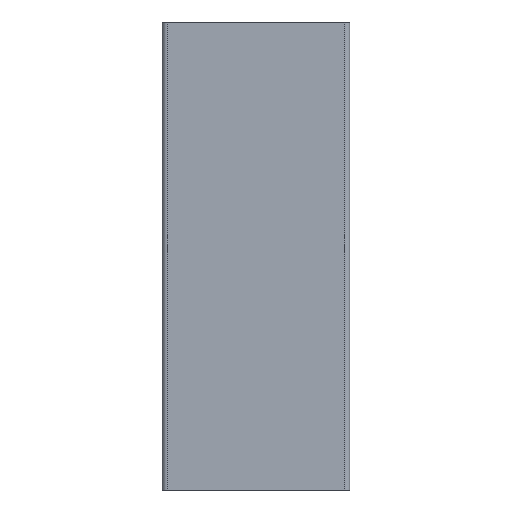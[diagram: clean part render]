
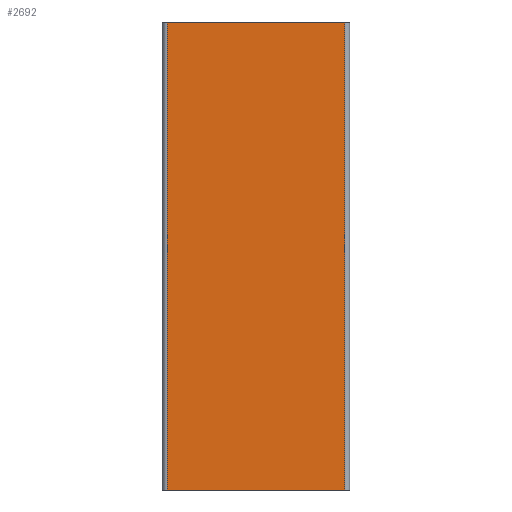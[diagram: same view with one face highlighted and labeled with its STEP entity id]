
A CAD part, front view. The second image highlights one B-rep face of the part: STEP entity #2692.
In plain terms, the highlighted planar face has unit normal (0, -1, 0).
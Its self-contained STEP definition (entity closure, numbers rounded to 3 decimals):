
#745=CARTESIAN_POINT('',(-19.0,0.0,100.0));
#746=VERTEX_POINT('',#745);
#754=CARTESIAN_POINT('',(19.0,0.0,100.0));
#755=VERTEX_POINT('',#754);
#756=CARTESIAN_POINT('',(19.0,0.0,100.0));
#757=DIRECTION('',(-1.0,0.0,0.0));
#758=VECTOR('',#757,38.0);
#759=LINE('',#756,#758);
#760=EDGE_CURVE('',#755,#746,#759,.T.);
#2116=CARTESIAN_POINT('',(19.0,0.0,0.0));
#2117=VERTEX_POINT('',#2116);
#2125=CARTESIAN_POINT('',(-19.0,0.0,0.0));
#2126=VERTEX_POINT('',#2125);
#2127=CARTESIAN_POINT('',(-19.0,0.0,0.0));
#2128=DIRECTION('',(1.0,0.0,0.0));
#2129=VECTOR('',#2128,38.0);
#2130=LINE('',#2127,#2129);
#2131=EDGE_CURVE('',#2126,#2117,#2130,.T.);
#2660=CARTESIAN_POINT('',(19.0,0.0,100.0));
#2661=DIRECTION('',(0.0,0.0,-1.0));
#2662=VECTOR('',#2661,100.0);
#2663=LINE('',#2660,#2662);
#2664=EDGE_CURVE('',#755,#2117,#2663,.T.);
#2676=CARTESIAN_POINT('',(0.0,0.0,0.0));
#2677=DIRECTION('',(0.0,-1.0,0.0));
#2678=DIRECTION('',(0.0,0.0,-1.0));
#2679=AXIS2_PLACEMENT_3D('',#2676,#2677,#2678);
#2680=PLANE('',#2679);
#2681=ORIENTED_EDGE('',*,*,#2664,.F.);
#2682=ORIENTED_EDGE('',*,*,#760,.T.);
#2683=CARTESIAN_POINT('',(-19.0,0.0,0.0));
#2684=DIRECTION('',(0.0,0.0,1.0));
#2685=VECTOR('',#2684,100.0);
#2686=LINE('',#2683,#2685);
#2687=EDGE_CURVE('',#2126,#746,#2686,.T.);
#2688=ORIENTED_EDGE('',*,*,#2687,.F.);
#2689=ORIENTED_EDGE('',*,*,#2131,.T.);
#2690=EDGE_LOOP('',(#2681,#2682,#2688,#2689));
#2691=FACE_OUTER_BOUND('',#2690,.T.);
#2692=ADVANCED_FACE('',(#2691),#2680,.T.);
